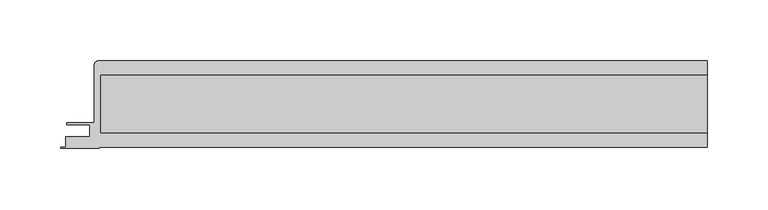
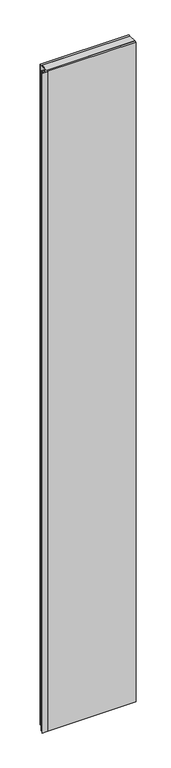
"""IFC4 building model written with IfcOpenShell, lengths in millimetres: plate geometry, Walls_External-Walls_Danpal_Danpatherm-K7-with-AIRPT-Frame : Walls_External-Walls_Danpal_Danpatherm-K7-with-AIRPT-Frame."""

from ifc_helpers import new_model, si_unit, point, frame, frame_2d, origin, place, context, project, spatial, polyline, circle_curve, trimmed, segment, composite_curve, outline, extrude, source, transform, mapped, element, save


def plate_d9b624b2(model_context):
    return source(origin(), model_context, "Body", "SweptSolid", [
        extrude(outline(polyline([(-247.1090065, 60.3432727), (252.7053854, 60.3432727), (252.7053854, 12.7999917), (-247.1090065, 12.7999917), (-247.1090065, 60.3432727)])), frame((0.0, 0.0, -22.0), z_axis=(0.0, 0.0, 1.0), x_axis=(1.0, 0.0, 0.0)), (0.0, 0.0, 1.0), 3948.6186541),
        extrude(outline(composite_curve([segment(polyline([(-248.8624765, 72.343285), (252.7053854, 72.343285), (252.7053854, 60.3432727), (-247.1090065, 60.3432727), (-247.1090065, 12.7999917), (252.7053854, 12.7999917), (252.7053854, 0.8), (-248.4483768, 0.8), (-248.4483768, 0.0), (-280.3483768, 0.0), (-280.3483768, 0.8), (-276.1483768, 0.8), (-276.1483768, 9.7656785), (-256.318617, 9.7656785), (-256.318617, 19.6715177), (-275.2747627, 19.6715177), (-275.2747627, 20.9715623), (-252.7053854, 20.9715623), (-252.7053854, 68.5003761)]), True, "CONTINUOUS"), segment(trimmed(circle_curve(frame_2d((-248.8624765, 68.5003761)), 3.8429089), [point((-252.7053854, 68.5003761))], [point((-248.8624765, 72.343285))], False, "CARTESIAN"), True, "CONTINUOUS")], self_intersect=False)), frame((0.0, 0.0, -22.0), z_axis=(0.0, 0.0, 1.0), x_axis=(1.0, 0.0, 0.0)), (0.0, 0.0, 1.0), 3948.6186541),
    ])


if __name__ == "__main__":
    model = new_model("IFC4")
    model_context = context("Model", 3, world=origin())
    ifc_project = project(units=[si_unit("LENGTHUNIT", "METRE", prefix="MILLI")], contexts=[model_context])
    site = spatial("IfcSite", under=ifc_project)
    building = spatial("IfcBuilding", under=site)
    placement = place(None, origin())
    plate_shape = plate_d9b624b2(model_context)
    element("IfcPlate", 1, ObjectType="Walls_External-Walls_Danpal_Danpatherm-K7-with-AIRPT-Frame : Walls_External-Walls_Danpal_Danpatherm-K7-with-AIRPT-Frame", at=placement, inside=building, context=model_context, shape_type="MappedRepresentation", body=[
        mapped(plate_shape, transform((0.0, 0.0, 0.0), x_axis=(1.0, 0.0, 0.0), y_axis=(0.0, 1.0, 0.0), z_axis=(0.0, 0.0, 1.0))),
    ])
    save(model, "model.ifc")
